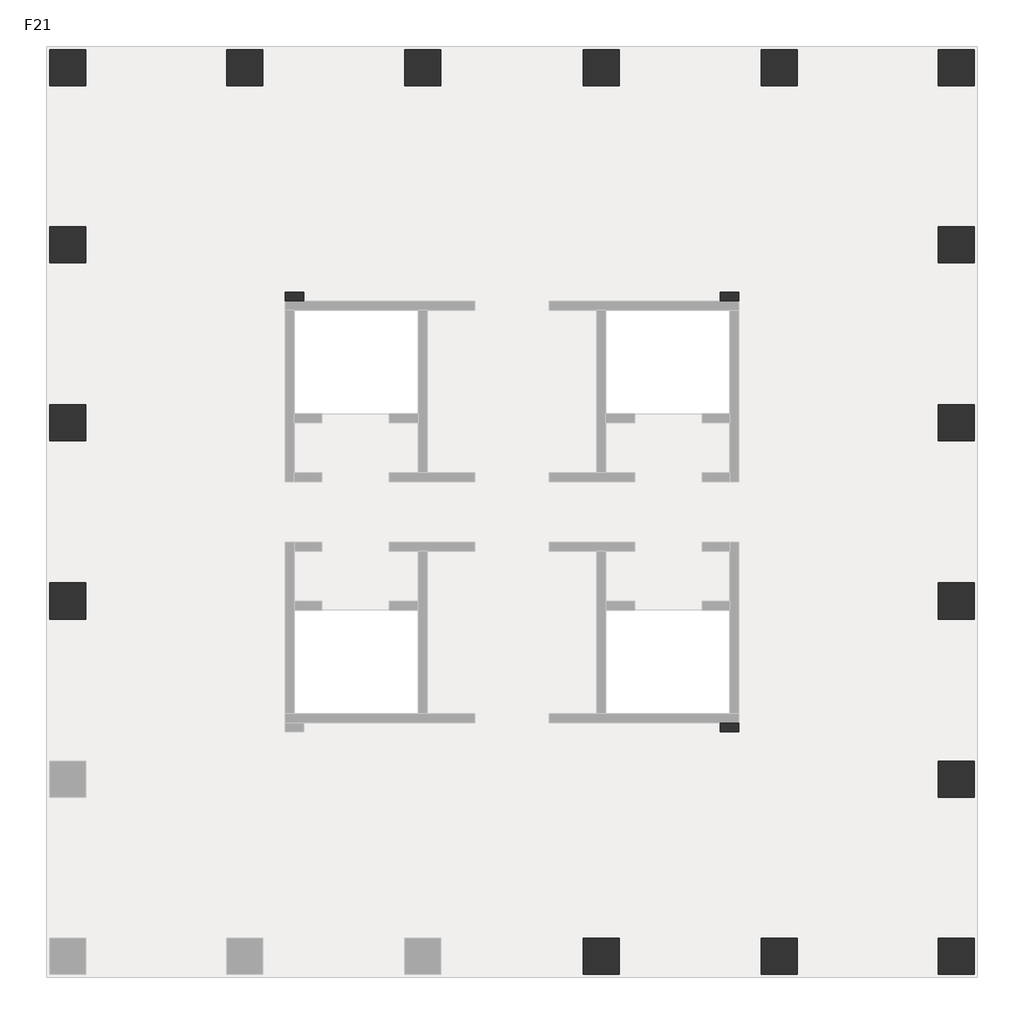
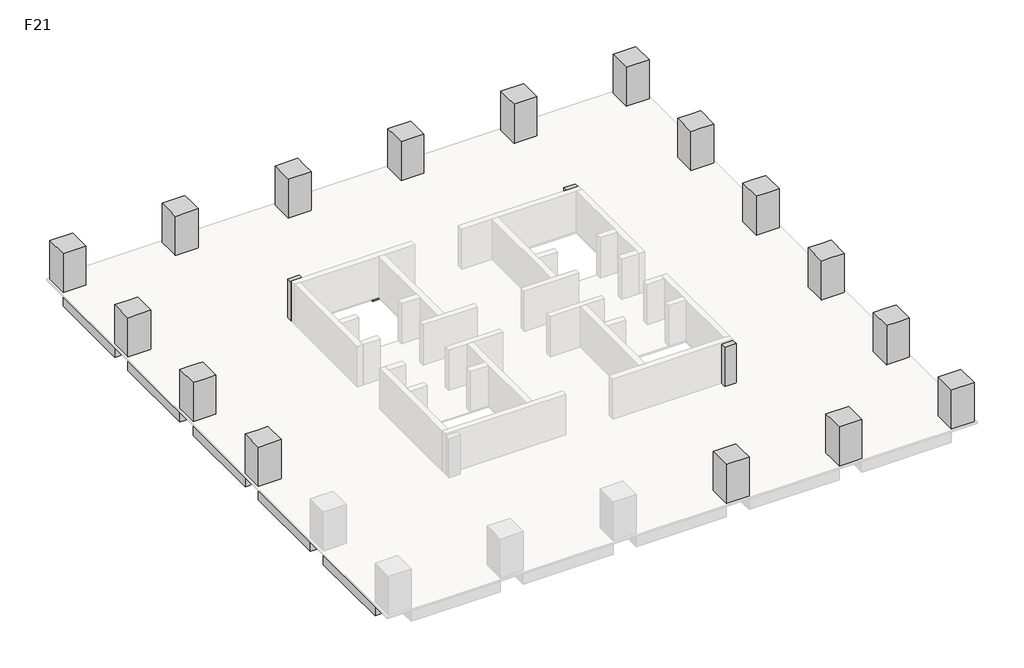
# One storey, part 2 of 2: 19 columns, 17 beams.
"""IFC4 building model written with IfcOpenShell, lengths in millimetres."""

from ifc_helpers import new_model, si_unit, frame, origin, place, context, project, spatial, polyline, outline, extrude, faceted_brep, element, save

model = new_model("IFC4")

# Units and contexts
model_context = context("Model", 3, world=origin())
ifc_project = project(units=[si_unit("LENGTHUNIT", "METRE", prefix="MILLI")], contexts=[model_context])

# Site, building, storey
site = spatial("IfcSite", under=ifc_project)
building = spatial("IfcBuilding", under=site)
storey = spatial("IfcBuildingStorey", under=building, Name="F21", Elevation=81000.0)

# Beams
placement = place(None, origin())
element("IfcBeam", 1, ObjectType="混凝土 - 矩形梁 : KL(5)-800x1000", at=placement, inside=storey, context=model_context, shape_type="SweptSolid", body=[
    extrude(outline(polyline([(25327.3257831, 27051.0498658), (25327.3257831, 26251.0498658), (19077.3257831, 26251.0498658), (19077.3257831, 27051.0498658), (25327.3257831, 27051.0498658)])), frame((0.0, 0.0, 80000.0), z_axis=(0.0, 0.0, 1.0), x_axis=(1.0, 0.0, 0.0)), (0.0, 0.0, 1.0), 900.0),
    extrude(outline(polyline([(-12472.6742169, 26251.0498658), (-12472.6742169, 27051.0498658), (-6222.6742169, 27051.0498658), (-6222.6742169, 26251.0498658), (-12472.6742169, 26251.0498658)])), frame((0.0, 0.0, 80000.0), z_axis=(0.0, 0.0, 1.0), x_axis=(1.0, 0.0, 0.0)), (0.0, 0.0, 1.0), 900.0),
    extrude(outline(polyline([(-4622.6742169, 26251.0498658), (-4622.6742169, 27051.0498658), (1677.3257831, 27051.0498658), (1677.3257831, 26251.0498658), (-4622.6742169, 26251.0498658)])), frame((0.0, 0.0, 80000.0), z_axis=(0.0, 0.0, 1.0), x_axis=(1.0, 0.0, 0.0)), (0.0, 0.0, 1.0), 900.0),
    extrude(outline(polyline([(3277.3257831, 26251.0498658), (3277.3257831, 27051.0498658), (9577.3257831, 27051.0498658), (9577.3257831, 26251.0498658), (3277.3257831, 26251.0498658)])), frame((0.0, 0.0, 80000.0), z_axis=(0.0, 0.0, 1.0), x_axis=(1.0, 0.0, 0.0)), (0.0, 0.0, 1.0), 900.0),
    extrude(outline(polyline([(11177.3257831, 26251.0498658), (11177.3257831, 27051.0498658), (17477.3257831, 27051.0498658), (17477.3257831, 26251.0498658), (11177.3257831, 26251.0498658)])), frame((0.0, 0.0, 80000.0), z_axis=(0.0, 0.0, 1.0), x_axis=(1.0, 0.0, 0.0)), (0.0, 0.0, 1.0), 900.0),
])
element("IfcBeam", 2, ObjectType="混凝土 - 矩形梁 : KL(5)-800x1000", at=placement, inside=storey, context=model_context, shape_type="SweptSolid", body=[
    extrude(outline(polyline([(26927.3257831, -12348.9501342), (26127.3257831, -12348.9501342), (26127.3257831, -6098.9501342), (26927.3257831, -6098.9501342), (26927.3257831, -12348.9501342)])), frame((0.0, 0.0, 80000.0), z_axis=(0.0, 0.0, 1.0), x_axis=(1.0, 0.0, 0.0)), (0.0, 0.0, 1.0), 900.0),
    extrude(outline(polyline([(26127.3257831, 25451.0498658), (26927.3257831, 25451.0498658), (26927.3257831, 19201.0498658), (26127.3257831, 19201.0498658), (26127.3257831, 25451.0498658)])), frame((0.0, 0.0, 80000.0), z_axis=(0.0, 0.0, 1.0), x_axis=(1.0, 0.0, 0.0)), (0.0, 0.0, 1.0), 900.0),
    extrude(outline(polyline([(26127.3257831, 17601.0498658), (26927.3257831, 17601.0498658), (26927.3257831, 11301.0498658), (26127.3257831, 11301.0498658), (26127.3257831, 17601.0498658)])), frame((0.0, 0.0, 80000.0), z_axis=(0.0, 0.0, 1.0), x_axis=(1.0, 0.0, 0.0)), (0.0, 0.0, 1.0), 900.0),
    extrude(outline(polyline([(26127.3257831, 9701.0498658), (26927.3257831, 9701.0498658), (26927.3257831, 3401.0498658), (26127.3257831, 3401.0498658), (26127.3257831, 9701.0498658)])), frame((0.0, 0.0, 80000.0), z_axis=(0.0, 0.0, 1.0), x_axis=(1.0, 0.0, 0.0)), (0.0, 0.0, 1.0), 900.0),
    extrude(outline(polyline([(26127.3257831, 1801.0498658), (26927.3257831, 1801.0498658), (26927.3257831, -4498.9501342), (26127.3257831, -4498.9501342), (26127.3257831, 1801.0498658)])), frame((0.0, 0.0, 80000.0), z_axis=(0.0, 0.0, 1.0), x_axis=(1.0, 0.0, 0.0)), (0.0, 0.0, 1.0), 900.0),
])
element("IfcBeam", 3, ObjectType="混凝土 - 矩形梁 : KL(5)-800x1000", at=placement, inside=storey, context=model_context, shape_type="SweptSolid", body=[
    extrude(outline(polyline([(-14072.6742169, 25451.0498658), (-13272.6742169, 25451.0498658), (-13272.6742169, 19201.0498658), (-14072.6742169, 19201.0498658), (-14072.6742169, 25451.0498658)])), frame((0.0, 0.0, 80000.0), z_axis=(0.0, 0.0, 1.0), x_axis=(1.0, 0.0, 0.0)), (0.0, 0.0, 1.0), 900.0),
    extrude(outline(polyline([(-13272.6742169, -12348.9501342), (-14072.6742169, -12348.9501342), (-14072.6742169, -6098.9501342), (-13272.6742169, -6098.9501342), (-13272.6742169, -12348.9501342)])), frame((0.0, 0.0, 80000.0), z_axis=(0.0, 0.0, 1.0), x_axis=(1.0, 0.0, 0.0)), (0.0, 0.0, 1.0), 900.0),
    extrude(outline(polyline([(-14072.6742169, 17601.0498658), (-13272.6742169, 17601.0498658), (-13272.6742169, 11301.0498658), (-14072.6742169, 11301.0498658), (-14072.6742169, 17601.0498658)])), frame((0.0, 0.0, 80000.0), z_axis=(0.0, 0.0, 1.0), x_axis=(1.0, 0.0, 0.0)), (0.0, 0.0, 1.0), 900.0),
    extrude(outline(polyline([(-14072.6742169, 9701.0498658), (-13272.6742169, 9701.0498658), (-13272.6742169, 3401.0498658), (-14072.6742169, 3401.0498658), (-14072.6742169, 9701.0498658)])), frame((0.0, 0.0, 80000.0), z_axis=(0.0, 0.0, 1.0), x_axis=(1.0, 0.0, 0.0)), (0.0, 0.0, 1.0), 900.0),
    extrude(outline(polyline([(-14072.6742169, 1801.0498658), (-13272.6742169, 1801.0498658), (-13272.6742169, -4498.9501342), (-14072.6742169, -4498.9501342), (-14072.6742169, 1801.0498658)])), frame((0.0, 0.0, 80000.0), z_axis=(0.0, 0.0, 1.0), x_axis=(1.0, 0.0, 0.0)), (0.0, 0.0, 1.0), 900.0),
])
element("IfcBeam", 4, ObjectType="混凝土 - 矩形梁 : L1-800x500", at=placement, inside=storey, context=model_context, shape_type="SweptSolid", body=[
    extrude(outline(polyline([(-12472.6742169, 2201.0498658), (-12472.6742169, 3001.0498658), (-3622.6742169, 3001.0498658), (-3622.6742169, 2201.0498658), (-12472.6742169, 2201.0498658)])), frame((0.0, 0.0, 80500.0), z_axis=(0.0, 0.0, 1.0), x_axis=(1.0, 0.0, 0.0)), (0.0, 0.0, 1.0), 400.0),
])
element("IfcBeam", 5, ObjectType="混凝土 - 矩形梁 : L1-800x500", at=placement, inside=storey, context=model_context, shape_type="SweptSolid", body=[
    extrude(outline(polyline([(-12472.6742169, 10101.0498658), (-12472.6742169, 10901.0498658), (-3622.6742169, 10901.0498658), (-3622.6742169, 10101.0498658), (-12472.6742169, 10101.0498658)])), frame((0.0, 0.0, 80500.0), z_axis=(0.0, 0.0, 1.0), x_axis=(1.0, 0.0, 0.0)), (0.0, 0.0, 1.0), 400.0),
])
element("IfcBeam", 6, ObjectType="混凝土 - 矩形梁 : L1-800x500", at=placement, inside=storey, context=model_context, shape_type="Brep", body=[
    faceted_brep([(-12472.6742169, 17789.85471, 80500.0), (-3622.6742169, 15588.3621727, 80500.0), (-3622.6742169, 15588.3621727, 80900.0), (-12472.6742169, 17789.85471, 80900.0), (-3173.6696907, 16301.0498658, 80500.0), (-3622.6742169, 16301.0498658, 80500.0), (-3622.6742169, 15901.0498658, 80500.0), (-12472.6742169, 18614.2350714, 80500.0), (-3746.9473979, 16443.6562607, 80500.0), (-12472.6742169, 18614.2350714, 80900.0), (-3746.9473979, 16443.6562607, 80900.0), (-3173.6696907, 16301.0498658, 80900.0), (-3622.6742169, 16301.0498658, 80900.0)], [[[0, 1, 2, 3]], [[4, 5, 6, 1, 0, 7, 8]], [[4, 8, 7, 9, 10, 11]], [[6, 5, 12, 2, 1]], [[5, 4, 11, 12]], [[7, 0, 3, 9]], [[3, 2, 12, 11, 10, 9]]]),
])
element("IfcBeam", 7, ObjectType="混凝土 - 矩形梁 : L1-800x500", at=placement, inside=storey, context=model_context, shape_type="SweptSolid", body=[
    extrude(outline(polyline([(-3173.6696907, 16301.0498658), (-3746.9473979, 16443.6562607), (-5661.5624638, 25451.0498658), (-4843.6893517, 25451.0498658), (-2898.7618154, 16301.0498658), (-3173.6696907, 16301.0498658)])), frame((0.0, 0.0, 80500.0), z_axis=(0.0, 0.0, 1.0), x_axis=(1.0, 0.0, 0.0)), (0.0, 0.0, 1.0), 400.0),
])
element("IfcBeam", 8, ObjectType="混凝土 - 矩形梁 : L1-800x500", at=placement, inside=storey, context=model_context, shape_type="SweptSolid", body=[
    extrude(outline(polyline([(2077.3257831, 25451.0498658), (2877.3257831, 25451.0498658), (2877.3257831, 15901.0498658), (2077.3257831, 15901.0498658), (2077.3257831, 25451.0498658)])), frame((0.0, 0.0, 80500.0), z_axis=(0.0, 0.0, 1.0), x_axis=(1.0, 0.0, 0.0)), (0.0, 0.0, 1.0), 400.0),
])
element("IfcBeam", 9, ObjectType="混凝土 - 矩形梁 : L1-800x500", at=placement, inside=storey, context=model_context, shape_type="SweptSolid", body=[
    extrude(outline(polyline([(9977.3257831, 25451.0498658), (10777.3257831, 25451.0498658), (10777.3257831, 15901.0498658), (9977.3257831, 15901.0498658), (9977.3257831, 25451.0498658)])), frame((0.0, 0.0, 80500.0), z_axis=(0.0, 0.0, 1.0), x_axis=(1.0, 0.0, 0.0)), (0.0, 0.0, 1.0), 400.0),
])
element("IfcBeam", 10, ObjectType="混凝土 - 矩形梁 : L1-800x500", at=placement, inside=storey, context=model_context, shape_type="SweptSolid", body=[
    extrude(outline(polyline([(2877.3257831, -12348.9501342), (2077.3257831, -12348.9501342), (2077.3257831, -2798.9501342), (2877.3257831, -2798.9501342), (2877.3257831, -12348.9501342)])), frame((0.0, 0.0, 80500.0), z_axis=(0.0, 0.0, 1.0), x_axis=(1.0, 0.0, 0.0)), (0.0, 0.0, 1.0), 400.0),
])
element("IfcBeam", 11, ObjectType="混凝土 - 矩形梁 : L1-800x500", at=placement, inside=storey, context=model_context, shape_type="SweptSolid", body=[
    extrude(outline(polyline([(10777.3257831, -12348.9501342), (9977.3257831, -12348.9501342), (9977.3257831, -2798.9501342), (10777.3257831, -2798.9501342), (10777.3257831, -12348.9501342)])), frame((0.0, 0.0, 80500.0), z_axis=(0.0, 0.0, 1.0), x_axis=(1.0, 0.0, 0.0)), (0.0, 0.0, 1.0), 400.0),
])
element("IfcBeam", 12, ObjectType="混凝土 - 矩形梁 : L1-800x500", at=placement, inside=storey, context=model_context, shape_type="Brep", body=[
    faceted_brep([(25327.3257831, -4687.7549784, 80500.0), (16477.3257831, -2486.2624411, 80500.0), (16477.3257831, -2486.2624411, 80900.0), (25327.3257831, -4687.7549784, 80900.0), (16028.3212569, -3198.9501342, 80500.0), (16477.3257831, -3198.9501342, 80500.0), (16477.3257831, -2798.9501342, 80500.0), (25327.3257831, -5512.1353397, 80500.0), (16601.5989641, -3341.556529, 80500.0), (25327.3257831, -5512.1353397, 80900.0), (16601.5989641, -3341.556529, 80900.0), (16028.3212569, -3198.9501342, 80900.0), (16477.3257831, -3198.9501342, 80900.0)], [[[0, 1, 2, 3]], [[4, 5, 6, 1, 0, 7, 8]], [[4, 8, 7, 9, 10, 11]], [[6, 5, 12, 2, 1]], [[5, 4, 11, 12]], [[7, 0, 3, 9]], [[3, 2, 12, 11, 10, 9]]]),
])
element("IfcBeam", 13, ObjectType="混凝土 - 矩形梁 : L1-800x500", at=placement, inside=storey, context=model_context, shape_type="SweptSolid", body=[
    extrude(outline(polyline([(16028.3212569, -3198.9501342), (16601.5989641, -3341.556529), (18516.21403, -12348.9501342), (17698.3409179, -12348.9501342), (15753.4133817, -3198.9501342), (16028.3212569, -3198.9501342)])), frame((0.0, 0.0, 80500.0), z_axis=(0.0, 0.0, 1.0), x_axis=(1.0, 0.0, 0.0)), (0.0, 0.0, 1.0), 400.0),
])
element("IfcBeam", 14, ObjectType="混凝土 - 矩形梁 : L1-800x500", at=placement, inside=storey, context=model_context, shape_type="SweptSolid", body=[
    extrude(outline(polyline([(25327.3257831, 3001.0498658), (25327.3257831, 2201.0498658), (16477.3257831, 2201.0498658), (16477.3257831, 3001.0498658), (25327.3257831, 3001.0498658)])), frame((0.0, 0.0, 80500.0), z_axis=(0.0, 0.0, 1.0), x_axis=(1.0, 0.0, 0.0)), (0.0, 0.0, 1.0), 400.0),
])
element("IfcBeam", 15, ObjectType="混凝土 - 矩形梁 : L1-800x500", at=placement, inside=storey, context=model_context, shape_type="SweptSolid", body=[
    extrude(outline(polyline([(25327.3257831, 10901.0498658), (25327.3257831, 10101.0498658), (16477.3257831, 10101.0498658), (16477.3257831, 10901.0498658), (25327.3257831, 10901.0498658)])), frame((0.0, 0.0, 80500.0), z_axis=(0.0, 0.0, 1.0), x_axis=(1.0, 0.0, 0.0)), (0.0, 0.0, 1.0), 400.0),
])
element("IfcBeam", 16, ObjectType="混凝土 - 矩形梁 : L1-800x500", at=placement, inside=storey, context=model_context, shape_type="Brep", body=[
    faceted_brep([(25327.3257831, 18610.6867312, 80500.0), (16590.8993897, 16393.3196262, 80500.0), (16227.3565337, 16301.0498658, 80500.0), (16227.3565337, 16301.0498658, 80900.0), (16590.8993897, 16393.3196262, 80900.0), (25327.3257831, 18610.6867312, 80900.0), (16477.3257831, 16301.0498658, 80500.0), (25327.3257831, 17785.3216299, 80500.0), (16477.3257831, 15539.1287365, 80500.0), (16477.3257831, 15901.0498658, 80500.0), (25327.3257831, 17785.3216299, 80900.0), (16477.3257831, 15539.1287365, 80900.0), (16477.3257831, 16301.0498658, 80900.0)], [[[0, 1, 2, 3, 4, 5]], [[6, 2, 1, 0, 7, 8, 9]], [[8, 7, 10, 11]], [[9, 8, 11, 12, 6]], [[2, 6, 12, 3]], [[7, 0, 5, 10]], [[5, 4, 3, 12, 11, 10]]]),
])
element("IfcBeam", 17, ObjectType="混凝土 - 矩形梁 : L1-800x500", at=placement, inside=storey, context=model_context, shape_type="SweptSolid", body=[
    extrude(outline(polyline([(16590.8993897, 16393.3196262), (16227.3565337, 16301.0498658), (15753.4133817, 16301.0498658), (17698.3409179, 25451.0498658), (18516.21403, 25451.0498658), (16590.8993897, 16393.3196262)])), frame((0.0, 0.0, 80500.0), z_axis=(0.0, 0.0, 1.0), x_axis=(1.0, 0.0, 0.0)), (0.0, 0.0, 1.0), 400.0),
])

# Columns
element("IfcColumn", 18, ObjectType="混凝土 - 矩形 - 柱 : Z1-1600x1600", at=placement, inside=storey, context=model_context, shape_type="SweptSolid", body=[
    extrude(outline(polyline([(-12472.6742169, 27051.0498658), (-12472.6742169, 25451.0498658), (-14072.6742169, 25451.0498658), (-14072.6742169, 27051.0498658), (-12472.6742169, 27051.0498658)])), frame((0.0, 0.0, 81000.0), z_axis=(0.0, 0.0, 1.0), x_axis=(1.0, 0.0, 0.0)), (0.0, 0.0, 1.0), 2900.0),
])
element("IfcColumn", 19, ObjectType="混凝土 - 矩形 - 柱 : Z1-1600x1600", at=placement, inside=storey, context=model_context, shape_type="Brep", body=[
    faceted_brep([(-4622.6742169, 27051.0498658, 81000.0), (-4622.6742169, 25451.0498658, 81000.0), (-6222.6742169, 25451.0498658, 81000.0), (-6222.6742169, 27051.0498658, 81000.0), (-4622.6742169, 27051.0498658, 83000.0), (-4622.6742169, 27051.0498658, 83900.0), (-4622.6742169, 26251.0498658, 83900.0), (-4622.6742169, 25451.0498658, 83900.0), (-6222.6742169, 25451.0498658, 83900.0), (-6222.6742169, 26251.0498658, 83900.0), (-6222.6742169, 27051.0498658, 83900.0), (-6222.6742169, 27051.0498658, 83000.0)], [[[0, 1, 2, 3]], [[1, 0, 4, 5, 6, 7]], [[2, 1, 7, 8]], [[3, 2, 8, 9, 10, 11]], [[0, 3, 11, 10, 5, 4]], [[7, 6, 5, 10, 9, 8]]]),
])
element("IfcColumn", 20, ObjectType="混凝土 - 矩形 - 柱 : Z1-1600x1600", at=placement, inside=storey, context=model_context, shape_type="Brep", body=[
    faceted_brep([(-12472.6742169, 19201.0498658, 81000.0), (-12472.6742169, 17601.0498658, 81000.0), (-14072.6742169, 17601.0498658, 81000.0), (-14072.6742169, 19201.0498658, 81000.0), (-12472.6742169, 19201.0498658, 83900.0), (-12472.6742169, 17601.0498658, 83900.0), (-13272.6742169, 17601.0498658, 83900.0), (-14072.6742169, 17601.0498658, 83900.0), (-14072.6742169, 17601.0498658, 83000.0), (-14072.6742169, 19201.0498658, 83900.0), (-14072.6742169, 19201.0498658, 83000.0), (-13272.6742169, 19201.0498658, 83900.0)], [[[0, 1, 2, 3]], [[1, 0, 4, 5]], [[2, 1, 5, 6, 7, 8]], [[3, 2, 8, 7, 9, 10]], [[0, 3, 10, 9, 11, 4]], [[5, 4, 11, 9, 7, 6]]]),
])
element("IfcColumn", 21, ObjectType="混凝土 - 矩形 - 柱 : Z1-1600x1600", at=placement, inside=storey, context=model_context, shape_type="Brep", body=[
    faceted_brep([(-12472.6742169, 11301.0498658, 81000.0), (-12472.6742169, 9701.0498658, 81000.0), (-14072.6742169, 9701.0498658, 81000.0), (-14072.6742169, 11301.0498658, 81000.0), (-12472.6742169, 11301.0498658, 83900.0), (-12472.6742169, 9701.0498658, 83900.0), (-13272.6742169, 9701.0498658, 83900.0), (-14072.6742169, 9701.0498658, 83900.0), (-14072.6742169, 9701.0498658, 83000.0), (-14072.6742169, 11301.0498658, 83900.0), (-14072.6742169, 11301.0498658, 83000.0), (-13272.6742169, 11301.0498658, 83900.0)], [[[0, 1, 2, 3]], [[1, 0, 4, 5]], [[2, 1, 5, 6, 7, 8]], [[3, 2, 8, 7, 9, 10]], [[0, 3, 10, 9, 11, 4]], [[5, 4, 11, 9, 7, 6]]]),
])
element("IfcColumn", 22, ObjectType="混凝土 - 矩形 - 柱 : Z1-1600x1600", at=placement, inside=storey, context=model_context, shape_type="Brep", body=[
    faceted_brep([(-12472.6742169, 3401.0498658, 81000.0), (-12472.6742169, 1801.0498658, 81000.0), (-14072.6742169, 1801.0498658, 81000.0), (-14072.6742169, 3401.0498658, 81000.0), (-12472.6742169, 3401.0498658, 83900.0), (-12472.6742169, 1801.0498658, 83900.0), (-13272.6742169, 1801.0498658, 83900.0), (-14072.6742169, 1801.0498658, 83900.0), (-14072.6742169, 1801.0498658, 83000.0), (-14072.6742169, 3401.0498658, 83900.0), (-14072.6742169, 3401.0498658, 83000.0), (-13272.6742169, 3401.0498658, 83900.0)], [[[0, 1, 2, 3]], [[1, 0, 4, 5]], [[2, 1, 5, 6, 7, 8]], [[3, 2, 8, 7, 9, 10]], [[0, 3, 10, 9, 11, 4]], [[5, 4, 11, 9, 7, 6]]]),
])
element("IfcColumn", 23, ObjectType="混凝土 - 矩形 - 柱 : Z1-1600x1600", at=placement, inside=storey, context=model_context, shape_type="SweptSolid", body=[
    extrude(outline(polyline([(25327.3257831, 27051.0498658), (26927.3257831, 27051.0498658), (26927.3257831, 25451.0498658), (25327.3257831, 25451.0498658), (25327.3257831, 27051.0498658)])), frame((0.0, 0.0, 81000.0), z_axis=(0.0, 0.0, 1.0), x_axis=(1.0, 0.0, 0.0)), (0.0, 0.0, 1.0), 2900.0),
])
element("IfcColumn", 24, ObjectType="混凝土 - 矩形 - 柱 : Z1-1600x1600", at=placement, inside=storey, context=model_context, shape_type="Brep", body=[
    faceted_brep([(25327.3257831, 19201.0498658, 81000.0), (26927.3257831, 19201.0498658, 81000.0), (26927.3257831, 17601.0498658, 81000.0), (25327.3257831, 17601.0498658, 81000.0), (25327.3257831, 17601.0498658, 83900.0), (25327.3257831, 19201.0498658, 83900.0), (26927.3257831, 17601.0498658, 83000.0), (26927.3257831, 17601.0498658, 83900.0), (26127.3257831, 17601.0498658, 83900.0), (26927.3257831, 19201.0498658, 83000.0), (26927.3257831, 19201.0498658, 83900.0), (26127.3257831, 19201.0498658, 83900.0)], [[[0, 1, 2, 3]], [[0, 3, 4, 5]], [[3, 2, 6, 7, 8, 4]], [[2, 1, 9, 10, 7, 6]], [[1, 0, 5, 11, 10, 9]], [[5, 4, 8, 7, 10, 11]]]),
])
element("IfcColumn", 25, ObjectType="混凝土 - 矩形 - 柱 : Z1-1600x1600", at=placement, inside=storey, context=model_context, shape_type="Brep", body=[
    faceted_brep([(25327.3257831, 11301.0498658, 81000.0), (26927.3257831, 11301.0498658, 81000.0), (26927.3257831, 9701.0498658, 81000.0), (25327.3257831, 9701.0498658, 81000.0), (25327.3257831, 9701.0498658, 83900.0), (25327.3257831, 11301.0498658, 83900.0), (26927.3257831, 9701.0498658, 83000.0), (26927.3257831, 9701.0498658, 83900.0), (26127.3257831, 9701.0498658, 83900.0), (26927.3257831, 11301.0498658, 83000.0), (26927.3257831, 11301.0498658, 83900.0), (26127.3257831, 11301.0498658, 83900.0)], [[[0, 1, 2, 3]], [[0, 3, 4, 5]], [[3, 2, 6, 7, 8, 4]], [[2, 1, 9, 10, 7, 6]], [[1, 0, 5, 11, 10, 9]], [[5, 4, 8, 7, 10, 11]]]),
])
element("IfcColumn", 26, ObjectType="混凝土 - 矩形 - 柱 : Z1-1600x1600", at=placement, inside=storey, context=model_context, shape_type="Brep", body=[
    faceted_brep([(25327.3257831, 3401.0498658, 81000.0), (26927.3257831, 3401.0498658, 81000.0), (26927.3257831, 1801.0498658, 81000.0), (25327.3257831, 1801.0498658, 81000.0), (25327.3257831, 1801.0498658, 83900.0), (25327.3257831, 3401.0498658, 83900.0), (26927.3257831, 1801.0498658, 83000.0), (26927.3257831, 1801.0498658, 83900.0), (26127.3257831, 1801.0498658, 83900.0), (26927.3257831, 3401.0498658, 83000.0), (26927.3257831, 3401.0498658, 83900.0), (26127.3257831, 3401.0498658, 83900.0)], [[[0, 1, 2, 3]], [[0, 3, 4, 5]], [[3, 2, 6, 7, 8, 4]], [[2, 1, 9, 10, 7, 6]], [[1, 0, 5, 11, 10, 9]], [[5, 4, 8, 7, 10, 11]]]),
])
element("IfcColumn", 27, ObjectType="混凝土 - 矩形 - 柱 : Z1-1600x1600", at=placement, inside=storey, context=model_context, shape_type="Brep", body=[
    faceted_brep([(25327.3257831, -4498.9501342, 81000.0), (26927.3257831, -4498.9501342, 81000.0), (26927.3257831, -6098.9501342, 81000.0), (25327.3257831, -6098.9501342, 81000.0), (25327.3257831, -6098.9501342, 83900.0), (25327.3257831, -4498.9501342, 83900.0), (26927.3257831, -6098.9501342, 83000.0), (26927.3257831, -6098.9501342, 83900.0), (26127.3257831, -6098.9501342, 83900.0), (26927.3257831, -4498.9501342, 83000.0), (26927.3257831, -4498.9501342, 83900.0), (26127.3257831, -4498.9501342, 83900.0)], [[[0, 1, 2, 3]], [[0, 3, 4, 5]], [[3, 2, 6, 7, 8, 4]], [[2, 1, 9, 10, 7, 6]], [[1, 0, 5, 11, 10, 9]], [[5, 4, 8, 7, 10, 11]]]),
])
element("IfcColumn", 28, ObjectType="混凝土 - 矩形 - 柱 : Z1-1600x1600", at=placement, inside=storey, context=model_context, shape_type="SweptSolid", body=[
    extrude(outline(polyline([(25327.3257831, -12348.9501342), (26927.3257831, -12348.9501342), (26927.3257831, -13948.9501342), (25327.3257831, -13948.9501342), (25327.3257831, -12348.9501342)])), frame((0.0, 0.0, 81000.0), z_axis=(0.0, 0.0, 1.0), x_axis=(1.0, 0.0, 0.0)), (0.0, 0.0, 1.0), 2900.0),
])
element("IfcColumn", 29, ObjectType="混凝土 - 矩形 - 柱 : Z1-1600x1600", at=placement, inside=storey, context=model_context, shape_type="Brep", body=[
    faceted_brep([(3277.3257831, 27051.0498658, 81000.0), (3277.3257831, 25451.0498658, 81000.0), (1677.3257831, 25451.0498658, 81000.0), (1677.3257831, 27051.0498658, 81000.0), (3277.3257831, 27051.0498658, 83000.0), (3277.3257831, 27051.0498658, 83900.0), (3277.3257831, 26251.0498658, 83900.0), (3277.3257831, 25451.0498658, 83900.0), (1677.3257831, 25451.0498658, 83900.0), (1677.3257831, 26251.0498658, 83900.0), (1677.3257831, 27051.0498658, 83900.0), (1677.3257831, 27051.0498658, 83000.0)], [[[0, 1, 2, 3]], [[1, 0, 4, 5, 6, 7]], [[2, 1, 7, 8]], [[3, 2, 8, 9, 10, 11]], [[0, 3, 11, 10, 5, 4]], [[7, 6, 5, 10, 9, 8]]]),
])
element("IfcColumn", 30, ObjectType="混凝土 - 矩形 - 柱 : Z1-1600x1600", at=placement, inside=storey, context=model_context, shape_type="Brep", body=[
    faceted_brep([(11177.3257831, 27051.0498658, 81000.0), (11177.3257831, 25451.0498658, 81000.0), (9577.3257831, 25451.0498658, 81000.0), (9577.3257831, 27051.0498658, 81000.0), (11177.3257831, 27051.0498658, 83000.0), (11177.3257831, 27051.0498658, 83900.0), (11177.3257831, 26251.0498658, 83900.0), (11177.3257831, 25451.0498658, 83900.0), (9577.3257831, 25451.0498658, 83900.0), (9577.3257831, 26251.0498658, 83900.0), (9577.3257831, 27051.0498658, 83900.0), (9577.3257831, 27051.0498658, 83000.0)], [[[0, 1, 2, 3]], [[1, 0, 4, 5, 6, 7]], [[2, 1, 7, 8]], [[3, 2, 8, 9, 10, 11]], [[0, 3, 11, 10, 5, 4]], [[7, 6, 5, 10, 9, 8]]]),
])
element("IfcColumn", 31, ObjectType="混凝土 - 矩形 - 柱 : Z1-1600x1600", at=placement, inside=storey, context=model_context, shape_type="Brep", body=[
    faceted_brep([(19077.3257831, 27051.0498658, 81000.0), (19077.3257831, 25451.0498658, 81000.0), (17477.3257831, 25451.0498658, 81000.0), (17477.3257831, 27051.0498658, 81000.0), (19077.3257831, 27051.0498658, 83000.0), (19077.3257831, 27051.0498658, 83900.0), (19077.3257831, 26251.0498658, 83900.0), (19077.3257831, 25451.0498658, 83900.0), (17477.3257831, 25451.0498658, 83900.0), (17477.3257831, 26251.0498658, 83900.0), (17477.3257831, 27051.0498658, 83900.0), (17477.3257831, 27051.0498658, 83000.0)], [[[0, 1, 2, 3]], [[1, 0, 4, 5, 6, 7]], [[2, 1, 7, 8]], [[3, 2, 8, 9, 10, 11]], [[0, 3, 11, 10, 5, 4]], [[7, 6, 5, 10, 9, 8]]]),
])
element("IfcColumn", 32, ObjectType="混凝土 - 矩形 - 柱 : Z1-1600x1600", at=placement, inside=storey, context=model_context, shape_type="Brep", body=[
    faceted_brep([(11177.3257831, -12348.9501342, 81000.0), (11177.3257831, -13948.9501342, 81000.0), (9577.3257831, -13948.9501342, 81000.0), (9577.3257831, -12348.9501342, 81000.0), (11177.3257831, -12348.9501342, 83900.0), (11177.3257831, -13148.9501342, 83900.0), (11177.3257831, -13948.9501342, 83900.0), (11177.3257831, -13948.9501342, 83000.0), (9577.3257831, -13948.9501342, 83900.0), (9577.3257831, -13948.9501342, 83000.0), (9577.3257831, -13148.9501342, 83900.0), (9577.3257831, -12348.9501342, 83900.0)], [[[0, 1, 2, 3]], [[1, 0, 4, 5, 6, 7]], [[2, 1, 7, 6, 8, 9]], [[3, 2, 9, 8, 10, 11]], [[0, 3, 11, 4]], [[6, 5, 4, 11, 10, 8]]]),
])
element("IfcColumn", 33, ObjectType="混凝土 - 矩形 - 柱 : Z1-1600x1600", at=placement, inside=storey, context=model_context, shape_type="Brep", body=[
    faceted_brep([(19077.3257831, -12348.9501342, 81000.0), (19077.3257831, -13948.9501342, 81000.0), (17477.3257831, -13948.9501342, 81000.0), (17477.3257831, -12348.9501342, 81000.0), (19077.3257831, -12348.9501342, 83900.0), (19077.3257831, -13148.9501342, 83900.0), (19077.3257831, -13948.9501342, 83900.0), (19077.3257831, -13948.9501342, 83000.0), (17477.3257831, -13948.9501342, 83900.0), (17477.3257831, -13948.9501342, 83000.0), (17477.3257831, -13148.9501342, 83900.0), (17477.3257831, -12348.9501342, 83900.0)], [[[0, 1, 2, 3]], [[1, 0, 4, 5, 6, 7]], [[2, 1, 7, 6, 8, 9]], [[3, 2, 9, 8, 10, 11]], [[0, 3, 11, 4]], [[6, 5, 4, 11, 10, 8]]]),
])
element("IfcColumn", 34, ObjectType="混凝土 - 矩形 - 柱 : Z2-800x800", at=placement, inside=storey, context=model_context, shape_type="SweptSolid", body=[
    extrude(outline(polyline([(-3622.6742169, 16301.0498658), (-2822.6742169, 16301.0498658), (-2822.6742169, 15901.0498658), (-3622.6742169, 15901.0498658), (-3622.6742169, 16301.0498658)])), frame((0.0, 0.0, 81000.0), z_axis=(0.0, 0.0, 1.0), x_axis=(1.0, 0.0, 0.0)), (0.0, 0.0, 1.0), 2900.0),
])
element("IfcColumn", 35, ObjectType="混凝土 - 矩形 - 柱 : Z2-800x800", at=placement, inside=storey, context=model_context, shape_type="SweptSolid", body=[
    extrude(outline(polyline([(16477.3257831, -3198.9501342), (15677.3257831, -3198.9501342), (15677.3257831, -2798.9501342), (16477.3257831, -2798.9501342), (16477.3257831, -3198.9501342)])), frame((0.0, 0.0, 81000.0), z_axis=(0.0, 0.0, 1.0), x_axis=(1.0, 0.0, 0.0)), (0.0, 0.0, 1.0), 2900.0),
])
element("IfcColumn", 36, ObjectType="混凝土 - 矩形 - 柱 : Z2-800x800", at=placement, inside=storey, context=model_context, shape_type="SweptSolid", body=[
    extrude(outline(polyline([(15677.3257831, 16301.0498658), (16477.3257831, 16301.0498658), (16477.3257831, 15901.0498658), (15677.3257831, 15901.0498658), (15677.3257831, 16301.0498658)])), frame((0.0, 0.0, 81000.0), z_axis=(0.0, 0.0, 1.0), x_axis=(1.0, 0.0, 0.0)), (0.0, 0.0, 1.0), 2900.0),
])

save(model, "model.ifc")
